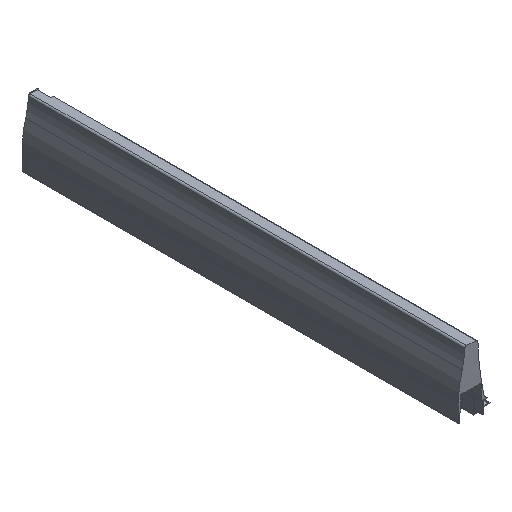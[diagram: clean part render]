
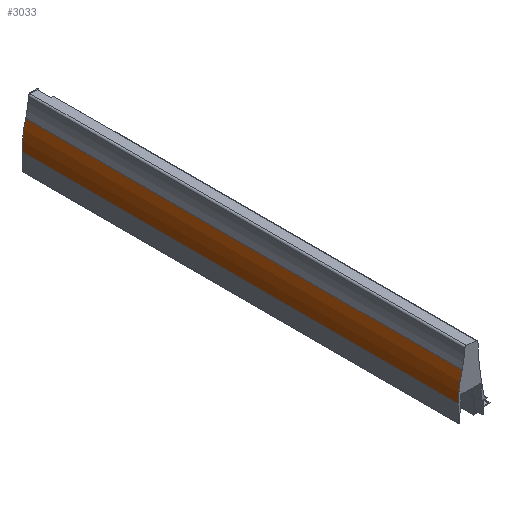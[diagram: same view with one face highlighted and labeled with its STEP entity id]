
A CAD part, isometric view. The second image highlights one B-rep face of the part: STEP entity #3033.
In plain terms, the highlighted cylindrical face has radius 130.3 mm (diameter 260.6 mm), a partial arc.
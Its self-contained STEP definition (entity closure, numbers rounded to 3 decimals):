
#192 = EDGE_LOOP ( 'NONE', ( #3302, #3303, #3304, #3305 ) ) ;
#408 = CARTESIAN_POINT ( 'NONE',  ( -4.1, 540., -7.695 ) ) ;
#410 = DIRECTION ( 'NONE',  ( 0., -1., 0. ) ) ;
#538 = VERTEX_POINT ( 'NONE', #786 ) ;
#539 = VERTEX_POINT ( 'NONE', #787 ) ;
#590 = VERTEX_POINT ( 'NONE', #767 ) ;
#591 = VERTEX_POINT ( 'NONE', #728 ) ;
#728 = CARTESIAN_POINT ( 'NONE',  ( -4.1, 540., -7.695 ) ) ;
#767 = CARTESIAN_POINT ( 'NONE',  ( 0.401, 540., 26.255 ) ) ;
#786 = CARTESIAN_POINT ( 'NONE',  ( 0.401, 0., 26.255 ) ) ;
#787 = CARTESIAN_POINT ( 'NONE',  ( -4.1, 0., -7.695 ) ) ;
#1044 = EDGE_CURVE ( 'NONE', #591, #539, #3774, .T. ) ;
#1070 = AXIS2_PLACEMENT_3D ( 'NONE', #2016, #2024, #2025 ) ;
#1204 = AXIS2_PLACEMENT_3D ( 'NONE', #2404, #2423, #2424 ) ;
#1293 = EDGE_CURVE ( 'NONE', #590, #538, #4076, .T. ) ;
#1302 = EDGE_CURVE ( 'NONE', #590, #591, #4095, .T. ) ;
#1459 = AXIS2_PLACEMENT_3D ( 'NONE', #2560, #2559, #2558 ) ;
#1589 = EDGE_CURVE ( 'NONE', #538, #539, #4426, .T. ) ;
#1797 = FACE_OUTER_BOUND ( 'NONE', #192, .T. ) ;
#1800 = CYLINDRICAL_SURFACE ( 'NONE', #1459, 130.3 ) ;
#1995 = CARTESIAN_POINT ( 'NONE',  ( 0.401, 540., 26.255 ) ) ;
#2008 = DIRECTION ( 'NONE',  ( 0., -1., 0. ) ) ;
#2016 = CARTESIAN_POINT ( 'NONE',  ( 126.2, 540., -7.695 ) ) ;
#2024 = DIRECTION ( 'NONE',  ( 0., -1., 0. ) ) ;
#2025 = DIRECTION ( 'NONE',  ( 1., 0., 0. ) ) ;
#2404 = CARTESIAN_POINT ( 'NONE',  ( 126.2, 0., -7.695 ) ) ;
#2423 = DIRECTION ( 'NONE',  ( 0., -1., 0. ) ) ;
#2424 = DIRECTION ( 'NONE',  ( 1., 0., 0. ) ) ;
#2558 = DIRECTION ( 'NONE',  ( -1., 0., 0. ) ) ;
#2559 = DIRECTION ( 'NONE',  ( 0., -1., 0. ) ) ;
#2560 = CARTESIAN_POINT ( 'NONE',  ( 126.2, 540., -7.695 ) ) ;
#3033 = ADVANCED_FACE ( 'NONE', ( #1797 ), #1800, .T. ) ;
#3302 = ORIENTED_EDGE ( 'NONE', *, *, #1589, .F. ) ;
#3303 = ORIENTED_EDGE ( 'NONE', *, *, #1293, .F. ) ;
#3304 = ORIENTED_EDGE ( 'NONE', *, *, #1302, .T. ) ;
#3305 = ORIENTED_EDGE ( 'NONE', *, *, #1044, .T. ) ;
#3773 = VECTOR ( 'NONE', #410, 1000. ) ;
#3774 = LINE ( 'NONE', #408, #3773 ) ;
#4076 = LINE ( 'NONE', #1995, #4078 ) ;
#4078 = VECTOR ( 'NONE', #2008, 1000. ) ;
#4095 = CIRCLE ( 'NONE', #1070, 130.3 ) ;
#4426 = CIRCLE ( 'NONE', #1204, 130.3 ) ;
